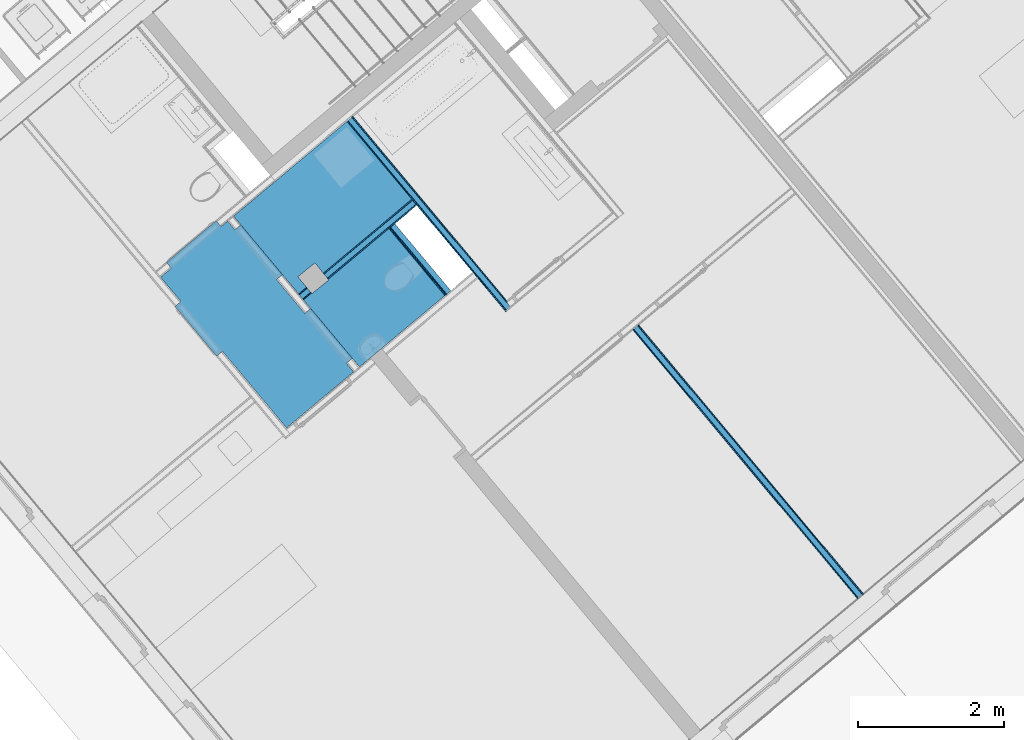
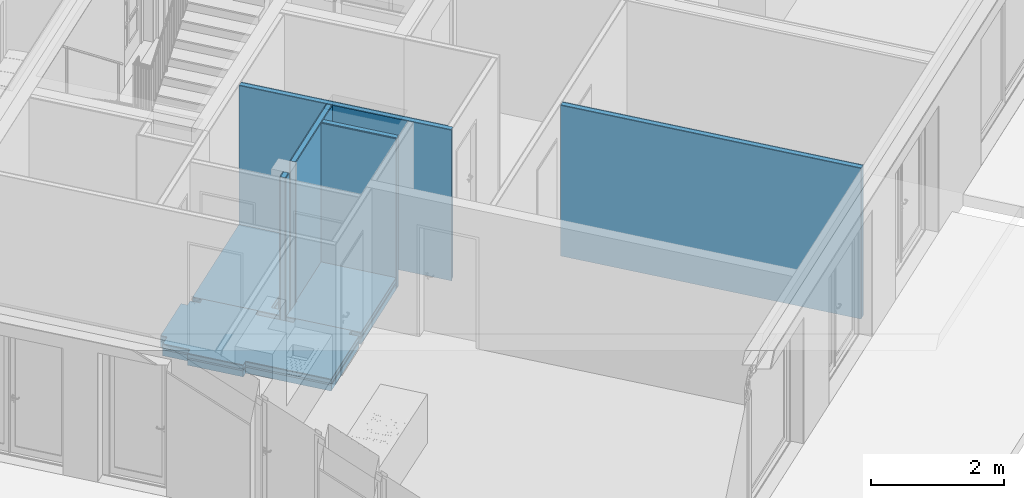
# One storey, part 32 of 75: 24 building element parts, 7 elements without a shape of their own.
"""IFC4 building model written with IfcOpenShell, lengths in metres."""

from ifc_helpers import new_model, entity, si_unit, converted_unit, derived_unit, direction, frame, origin_with_axes, place, context, subcontext, project, spatial, polygons, material, type_object, element, aggregate, save


model = new_model("IFC4")

# Units and contexts
model_context = context("Model", 3, precision=1e-05, world=origin_with_axes(), true_north=direction((0.0, 1.0)))
body_context = subcontext(model_context, "Body", "Model", "MODEL_VIEW")
ifc_project = project(units=[si_unit("LENGTHUNIT", "METRE"), si_unit("AREAUNIT", "SQUARE_METRE"), si_unit("VOLUMEUNIT", "CUBIC_METRE"), converted_unit("PLANEANGLEUNIT", "DEGREE", entity("IfcPlaneAngleMeasure", 0.0174532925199), si_unit("PLANEANGLEUNIT", "RADIAN"), dimensions=[0, 0, 0, 0, 0, 0, 0]), converted_unit("TIMEUNIT", "Year", entity("IfcTimeMeasure", 31556926.0), si_unit("TIMEUNIT", "SECOND"), dimensions=[0, 0, 1, 0, 0, 0, 0]), si_unit("MASSUNIT", "GRAM", prefix="KILO"), si_unit("THERMODYNAMICTEMPERATUREUNIT", "DEGREE_CELSIUS"), si_unit("LUMINOUSINTENSITYUNIT", "LUMEN"), si_unit("ENERGYUNIT", "JOULE", prefix="MEGA"), derived_unit("THERMALCONDUCTANCEUNIT", [(si_unit("POWERUNIT", "WATT"), 1), (si_unit("LENGTHUNIT", "METRE"), -1), (si_unit("THERMODYNAMICTEMPERATUREUNIT", "KELVIN"), -1)]), derived_unit("SPECIFICHEATCAPACITYUNIT", [(si_unit("ENERGYUNIT", "JOULE"), 1), (si_unit("MASSUNIT", "GRAM", prefix="KILO"), -1), (si_unit("THERMODYNAMICTEMPERATUREUNIT", "KELVIN"), -1)]), derived_unit("MASSDENSITYUNIT", [(si_unit("MASSUNIT", "GRAM", prefix="KILO"), 1), (si_unit("VOLUMEUNIT", "CUBIC_METRE"), -1)])], contexts=[model_context])

# Site, building, storey
site_placement = place(None, frame((-0.00153261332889, -0.00661245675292, 0.0), z_axis=(0.0, 0.0, 1.0), x_axis=(1.0, 0.0, 0.0)))
site = spatial("IfcSite", under=ifc_project, at=site_placement, Name="Gelände", CompositionType="ELEMENT")
building_placement = place(site_placement, origin_with_axes())
building = spatial("IfcBuilding", under=site, at=building_placement, Name="Gebäude", CompositionType="ELEMENT")
storey_placement = place(building_placement, frame((0.0, 0.0, -0.22), z_axis=(0.0, 0.0, 1.0), x_axis=(1.0, 0.0, 0.0)))
storey = spatial("IfcBuildingStorey", under=building, at=storey_placement, Name="EG", CompositionType="ELEMENT", Elevation=-0.22)

# Wall, building element parts
wall_type_1 = type_object("IfcWallType", Name="IW LB 01 Leichtbautrennwand einfach 10,5 cm 105", PredefinedType="NOTDEFINED")
wall_1_placement = place(storey_placement, frame((2.82455205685, 18.2460213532, 0.0), z_axis=(0.0, 0.0, 1.0), x_axis=(0.641209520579, -0.767365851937, 0.0)))
wall_1 = element("IfcWall", 1, at=wall_1_placement, inside=storey, type_object=wall_type_1, Name="Wand-012", PredefinedType="NOTDEFINED")
ifc_material_1 = material(Name="Gipskarton")
building_element_part_1_placement = place(wall_1_placement, origin_with_axes())
building_element_part_1 = element("IfcBuildingElementPart", 2, at=building_element_part_1_placement, material=ifc_material_1, Name="Gipskarton", PredefinedType="NOTDEFINED", context=body_context, shape_type="Tessellation", body=[
    polygons([(0.0, 0.0, 2.76), (4.80588291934, 0.0, 2.76), (4.80588291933, 0.0, 0.0), (0.0, 0.0, 0.0), (4.80589268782, -0.015, 2.76), (0.0, -0.015, 2.76), (4.8058926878, -0.015, 0.0), (0.0, -0.015, 0.0)], [[[1, 2, 3, 4]], [[5, 2, 1, 6]], [[2, 5, 7, 3]], [[4, 3, 7, 8]], [[6, 1, 4, 8]], [[5, 6, 8, 7]]], closed=True),
])
ifc_material_2 = material(Name="Mineralwolle weich")
building_element_part_2_placement = place(wall_1_placement, origin_with_axes())
building_element_part_2 = element("IfcBuildingElementPart", 3, at=building_element_part_2_placement, material=ifc_material_2, Name="Mineralwolle weich", PredefinedType="NOTDEFINED", context=body_context, shape_type="Tessellation", body=[
    polygons([(0.0, -0.015, 2.76), (4.80589268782, -0.015, 2.76), (4.8058926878, -0.015, 0.0), (0.0, -0.015, 0.0), (4.80594153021, -0.09, 2.76), (0.0, -0.09, 2.76), (4.80594153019, -0.09, 0.0), (0.0, -0.09, 0.0)], [[[1, 2, 3, 4]], [[5, 2, 1, 6]], [[2, 5, 7, 3]], [[4, 3, 7, 8]], [[6, 1, 4, 8]], [[5, 6, 8, 7]]], closed=True),
])
building_element_part_3_placement = place(wall_1_placement, origin_with_axes())
building_element_part_3 = element("IfcBuildingElementPart", 4, at=building_element_part_3_placement, material=ifc_material_1, Name="Gipskarton", PredefinedType="NOTDEFINED", context=body_context, shape_type="Tessellation", body=[
    polygons([(0.0, -0.09, 2.76), (4.80594153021, -0.09, 2.76), (4.80594153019, -0.09, 0.0), (0.0, -0.09, 0.0), (4.80595129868, -0.105, 2.76), (0.0, -0.105, 2.76), (4.80595129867, -0.105, 0.0), (0.0, -0.105, 0.0)], [[[1, 2, 3, 4]], [[5, 2, 1, 6]], [[2, 5, 7, 3]], [[4, 3, 7, 8]], [[6, 1, 4, 8]], [[5, 6, 8, 7]]], closed=True),
])
aggregate(wall_1, [building_element_part_1, building_element_part_2, building_element_part_3])

wall_2_placement = place(storey_placement, frame((-0.283908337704, 19.9697246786, 0.0), z_axis=(0.0, 0.0, 1.0), x_axis=(-0.76736585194, -0.641209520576, 0.0)))
wall_2 = element("IfcWall", 5, at=wall_2_placement, inside=storey, type_object=wall_type_1, Name="Wand-012", PredefinedType="NOTDEFINED")
building_element_part_4_placement = place(wall_2_placement, origin_with_axes())
building_element_part_4 = element("IfcBuildingElementPart", 6, at=building_element_part_4_placement, material=ifc_material_1, Name="Gipskarton", PredefinedType="NOTDEFINED", context=body_context, shape_type="Tessellation", body=[
    polygons([(1.88476244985, 0.105, 0.0), (1.88476244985, 0.105, 2.76), (2.02595275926, 0.105, 2.76), (2.02595275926, 0.105, 0.0), (1.88453826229, 0.09, 2.76), (1.88453826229, 0.09, 0.0), (2.02595275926, 0.09, 2.76), (2.02595275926, 0.09, 0.0)], [[[1, 2, 3, 4]], [[5, 2, 1, 6]], [[2, 5, 7, 3]], [[4, 3, 7, 8]], [[6, 1, 4, 8]], [[5, 6, 8, 7]]], closed=True),
    polygons([(1.58450475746, 0.09, 2.76), (1.58472894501, 0.105, 2.76), (0.39526751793, 0.105, 2.76), (0.0, 0.105, 2.76), (0.0, 0.09, 2.76), (1.58472894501, 0.105, 0.0), (1.58450475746, 0.09, 0.0), (0.0, 0.105, 0.0), (0.0, 0.09, 0.0)], [[[1, 2, 3, 4, 5]], [[6, 2, 1, 7]], [[2, 6, 8, 4, 3]], [[9, 5, 4, 8]], [[7, 1, 5, 9]], [[6, 7, 9, 8]]], closed=True),
])
building_element_part_5_placement = place(wall_2_placement, origin_with_axes())
building_element_part_5 = element("IfcBuildingElementPart", 7, at=building_element_part_5_placement, material=ifc_material_2, Name="Mineralwolle weich", PredefinedType="NOTDEFINED", context=body_context, shape_type="Tessellation", body=[
    polygons([(1.88453826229, 0.09, 0.0), (1.88453826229, 0.09, 2.76), (2.02595275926, 0.09, 2.76), (2.02595275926, 0.09, 0.0), (1.8834173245, 0.015, 2.76), (1.8834173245, 0.015, 0.0), (2.02595275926, 0.015, 2.76), (2.02595275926, 0.015, 0.0)], [[[1, 2, 3, 4]], [[5, 2, 1, 6]], [[2, 5, 7, 3]], [[4, 3, 7, 8]], [[6, 1, 4, 8]], [[5, 6, 8, 7]]], closed=True),
    polygons([(1.58338381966, 0.015, 2.76), (1.58450475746, 0.09, 2.76), (0.0, 0.09, 2.76), (0.0, 0.015, 2.76), (1.58450475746, 0.09, 0.0), (1.58338381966, 0.015, 0.0), (0.0, 0.09, 0.0), (0.0, 0.015, 0.0)], [[[1, 2, 3, 4]], [[5, 2, 1, 6]], [[2, 5, 7, 3]], [[8, 4, 3, 7]], [[6, 1, 4, 8]], [[5, 6, 8, 7]]], closed=True),
])
building_element_part_6_placement = place(wall_2_placement, origin_with_axes())
building_element_part_6 = element("IfcBuildingElementPart", 8, at=building_element_part_6_placement, material=ifc_material_1, Name="Gipskarton", PredefinedType="NOTDEFINED", context=body_context, shape_type="Tessellation", body=[
    polygons([(1.8834173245, 0.015, 0.0), (1.8834173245, 0.015, 2.76), (2.02595275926, 0.015, 2.76), (2.02595275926, 0.015, 0.0), (1.88319313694, 0.0, 2.76), (1.88319313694, 0.0, 0.0), (2.02595275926, 0.0, 2.76), (2.02595275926, 0.0, 0.0)], [[[1, 2, 3, 4]], [[5, 2, 1, 6]], [[2, 5, 7, 3]], [[4, 3, 7, 8]], [[6, 1, 4, 8]], [[5, 6, 8, 7]]], closed=True),
    polygons([(1.58315963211, 0.0, 2.76), (1.58338381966, 0.015, 2.76), (0.0, 0.015, 2.76), (0.0, 0.0, 2.76), (1.58338381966, 0.015, 0.0), (1.58315963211, 0.0, 0.0), (0.0, 0.015, 0.0), (0.0, 0.0, 0.0)], [[[1, 2, 3, 4]], [[5, 2, 1, 6]], [[2, 5, 7, 3]], [[8, 4, 3, 7]], [[6, 1, 4, 8]], [[5, 6, 8, 7]]], closed=True),
])
aggregate(wall_2, [building_element_part_4, building_element_part_5, building_element_part_6])

wall_3_placement = place(storey_placement, frame((-1.23301762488, 21.1055687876, 0.0), z_axis=(0.0, 0.0, 1.0), x_axis=(0.6412095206, -0.767365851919, 0.0)))
wall_3 = element("IfcWall", 9, at=wall_3_placement, inside=storey, type_object=wall_type_1, Name="Wand-012", PredefinedType="NOTDEFINED")
building_element_part_7_placement = place(wall_3_placement, origin_with_axes())
building_element_part_7 = element("IfcBuildingElementPart", 10, at=building_element_part_7_placement, material=ifc_material_1, Name="Gipskarton", PredefinedType="NOTDEFINED", context=body_context, shape_type="Tessellation", body=[
    polygons([(0.0900000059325, 0.105, 2.76), (3.39960026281, 0.105, 2.76), (3.39960026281, 0.105, 0.0), (0.0900000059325, 0.105, 0.0), (0.0900000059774, 0.09, 2.76), (3.39960026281, 0.09, 2.76), (3.39960026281, 0.09, 0.0), (0.0900000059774, 0.09, 0.0)], [[[1, 2, 3, 4]], [[2, 1, 5, 6]], [[2, 6, 7, 3]], [[3, 7, 8, 4]], [[5, 1, 4, 8]], [[5, 8, 7, 6]]], closed=True),
])
building_element_part_8_placement = place(wall_3_placement, origin_with_axes())
building_element_part_8 = element("IfcBuildingElementPart", 11, at=building_element_part_8_placement, material=ifc_material_2, Name="Mineralwolle weich", PredefinedType="NOTDEFINED", context=body_context, shape_type="Tessellation", body=[
    polygons([(0.0900000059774, 0.09, 2.76), (3.47460026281, 0.09, 2.76), (3.47460026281, 0.09, 0.0), (0.0900000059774, 0.09, 0.0), (0.0900000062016, 0.015, 2.76), (3.47460026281, 0.015, 2.76), (3.47460026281, 0.015, 0.0), (0.0900000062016, 0.015, 0.0)], [[[1, 2, 3, 4]], [[2, 1, 5, 6]], [[2, 6, 7, 3]], [[3, 7, 8, 4]], [[5, 1, 4, 8]], [[5, 8, 7, 6]]], closed=True),
])
building_element_part_9_placement = place(wall_3_placement, origin_with_axes())
building_element_part_9 = element("IfcBuildingElementPart", 12, at=building_element_part_9_placement, material=ifc_material_1, Name="Gipskarton", PredefinedType="NOTDEFINED", context=body_context, shape_type="Tessellation", body=[
    polygons([(0.0900000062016, 0.015, 2.76), (1.48018589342, 0.015, 2.76), (2.78506485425, 0.015, 2.76), (3.48960026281, 0.015, 2.76), (3.48960026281, 0.015, 0.0), (0.0900000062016, 0.015, 0.0), (1.48018589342, 0.0, 2.76), (0.0900000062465, 0.0, 2.76), (1.58518589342, 0.0, 2.76), (2.78506485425, 0.0, 2.76), (3.48960026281, 0.0, 2.76), (3.48960026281, 0.0, 0.0), (0.0900000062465, 0.0, 0.0)], [[[1, 2, 3, 4, 5, 6]], [[7, 2, 1, 8]], [[2, 7, 9, 10, 3]], [[11, 4, 3, 10]], [[4, 11, 12, 5]], [[5, 12, 13, 6]], [[8, 1, 6, 13]], [[7, 8, 13, 12, 11, 10, 9]]], closed=True),
])
aggregate(wall_3, [building_element_part_7, building_element_part_8, building_element_part_9])

# Space
space_placement = place(storey_placement, frame((-3.73003284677, 18.9005183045, 0.0), z_axis=(0.0, 0.0, 1.0), x_axis=(0.641209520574, -0.767365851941, 0.0)))
space = spatial("IfcSpace", under=storey, at=space_placement, CompositionType="ELEMENT", PredefinedType="NOTDEFINED")

# Covering, building element parts
covering_type = type_object("IfcCoveringType", Name="DE 01 Decke Wohnung/Wohnung Fließen 220", PredefinedType="NOTDEFINED")
covering_1_placement = place(space_placement, frame((-0.000120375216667, 0.192623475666, 0.22), z_axis=(0.0, 0.0, 1.0), x_axis=(0.641209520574, 0.767365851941, 0.0)))
covering_1 = element("IfcCovering", 13, at=covering_1_placement, inside=space, type_object=covering_type, Name="Decke-003", PredefinedType="NOTDEFINED")
ifc_material_3 = material(Name="Fliesen")
building_element_part_10_placement = place(covering_1_placement, origin_with_axes())
building_element_part_10 = element("IfcBuildingElementPart", 14, at=building_element_part_10_placement, material=ifc_material_3, Name="Fliesen", PredefinedType="NOTDEFINED", context=body_context, shape_type="Tessellation", body=[
    polygons([(0.772026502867, 0.645686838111, -0.015), (0.772026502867, 0.645686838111, 0.0), (0.871992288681, 0.526053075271, 0.0), (0.871992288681, 0.526053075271, -0.015), (0.682704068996, 0.570977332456, 0.0), (0.682704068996, 0.570977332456, -0.015), (0.6825988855, 0.57110308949, 0.0), (0.615338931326, 0.651518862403, 0.0), (-0.0673464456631, 0.0805191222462, 0.0), (-1.94673659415e-08, -1.62825521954e-08, 0.0), (1.87046381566e-05, -2.24027601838e-05, 0.0), (-0.147735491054, -0.123604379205, 0.0), (0.13108354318, -0.457280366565, 0.0), (0.0505101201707, -0.524607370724, 0.0), (0.621186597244, -1.20756298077, 0.0), (0.701760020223, -1.14023597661, 0.0), (1.57974343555, -2.1909603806, 0.0), (2.49986944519, -1.42210479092, 0.0), (2.40026170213, -1.30289938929, 0.0), (2.48083508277, -1.23557242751, 0.0), (1.91015864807, -0.552616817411, 0.0), (1.82958522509, -0.61994382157, 0.0), (1.44266872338, -0.156902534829, 0.0), (1.52324214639, -0.0895755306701, 0.0), (0.952565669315, 0.59338007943, 0.0), (0.952565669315, 0.59338007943, -0.015), (1.52324214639, -0.0895755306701, -0.015), (1.44266872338, -0.156902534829, -0.015), (1.82958522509, -0.61994382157, -0.015), (1.91015864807, -0.552616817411, -0.015), (2.48083508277, -1.23557242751, -0.015), (2.40026170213, -1.30289938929, -0.015), (2.49986944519, -1.42210479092, -0.015), (1.57974343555, -2.1909603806, -0.015), (0.701760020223, -1.14023597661, -0.015), (0.621186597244, -1.20756298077, -0.015), (0.0505101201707, -0.524607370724, -0.015), (0.13108354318, -0.457280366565, -0.015), (-0.147735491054, -0.123604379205, -0.015), (1.87046381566e-05, -2.24027601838e-05, -0.015), (-1.94673659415e-08, -1.62825521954e-08, -0.015), (-0.0673464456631, 0.0805191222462, -0.015), (0.615338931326, 0.651518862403, -0.015), (0.6825988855, 0.57110308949, -0.015)], [[[1, 2, 3, 4]], [[5, 2, 1, 6]], [[5, 7, 8, 9, 10, 11, 12, 13, 14, 15, 16, 17, 18, 19, 20, 21, 22, 23, 24, 25, 3, 2]], [[26, 4, 3, 25]], [[6, 1, 4, 26, 27, 28, 29, 30, 31, 32, 33, 34, 35, 36, 37, 38, 39, 40, 41, 42, 43, 44]], [[7, 5, 6, 44]], [[7, 44, 43, 8]], [[43, 42, 9, 8]], [[41, 10, 9, 42]], [[11, 10, 41, 40]], [[12, 11, 40, 39]], [[12, 39, 38, 13]], [[38, 37, 14, 13]], [[37, 36, 15, 14]], [[36, 35, 16, 15]], [[35, 34, 17, 16]], [[34, 33, 18, 17]], [[33, 32, 19, 18]], [[32, 31, 20, 19]], [[31, 30, 21, 20]], [[30, 29, 22, 21]], [[29, 28, 23, 22]], [[28, 27, 24, 23]], [[27, 26, 25, 24]]], closed=True),
])
ifc_material_4 = material(Name="Estrich")
building_element_part_11_placement = place(covering_1_placement, origin_with_axes())
building_element_part_11 = element("IfcBuildingElementPart", 15, at=building_element_part_11_placement, material=ifc_material_4, Name="Estrich", PredefinedType="NOTDEFINED", context=body_context, shape_type="Tessellation", body=[
    polygons([(0.772026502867, 0.645686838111, -0.08), (0.772026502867, 0.645686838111, -0.015), (0.871992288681, 0.526053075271, -0.015), (0.871992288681, 0.526053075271, -0.08), (0.682704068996, 0.570977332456, -0.015), (0.682704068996, 0.570977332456, -0.08), (0.6825988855, 0.57110308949, -0.015), (0.615338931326, 0.651518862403, -0.015), (-0.0673464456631, 0.0805191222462, -0.015), (-1.94673659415e-08, -1.62825521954e-08, -0.015), (1.87046381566e-05, -2.24027601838e-05, -0.015), (-0.147735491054, -0.123604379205, -0.015), (0.13108354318, -0.457280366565, -0.015), (0.0505101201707, -0.524607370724, -0.015), (0.621186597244, -1.20756298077, -0.015), (0.701760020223, -1.14023597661, -0.015), (1.57974343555, -2.1909603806, -0.015), (2.49986944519, -1.42210479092, -0.015), (2.40026170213, -1.30289938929, -0.015), (2.48083508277, -1.23557242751, -0.015), (1.91015864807, -0.552616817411, -0.015), (1.82958522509, -0.61994382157, -0.015), (1.44266872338, -0.156902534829, -0.015), (1.52324214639, -0.0895755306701, -0.015), (0.952565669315, 0.59338007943, -0.015), (0.952565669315, 0.59338007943, -0.08), (1.52324214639, -0.0895755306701, -0.08), (1.44266872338, -0.156902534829, -0.08), (1.82958522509, -0.61994382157, -0.08), (1.91015864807, -0.552616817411, -0.08), (2.48083508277, -1.23557242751, -0.08), (2.40026170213, -1.30289938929, -0.08), (2.49986944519, -1.42210479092, -0.08), (1.57974343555, -2.1909603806, -0.08), (0.701760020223, -1.14023597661, -0.08), (0.621186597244, -1.20756298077, -0.08), (0.0505101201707, -0.524607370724, -0.08), (0.13108354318, -0.457280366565, -0.08), (-0.147735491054, -0.123604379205, -0.08), (1.87046381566e-05, -2.24027601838e-05, -0.08), (-1.94673659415e-08, -1.62825521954e-08, -0.08), (-0.0673464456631, 0.0805191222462, -0.08), (0.615338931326, 0.651518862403, -0.08), (0.6825988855, 0.57110308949, -0.08)], [[[1, 2, 3, 4]], [[5, 2, 1, 6]], [[5, 7, 8, 9, 10, 11, 12, 13, 14, 15, 16, 17, 18, 19, 20, 21, 22, 23, 24, 25, 3, 2]], [[26, 4, 3, 25]], [[6, 1, 4, 26, 27, 28, 29, 30, 31, 32, 33, 34, 35, 36, 37, 38, 39, 40, 41, 42, 43, 44]], [[7, 5, 6, 44]], [[7, 44, 43, 8]], [[43, 42, 9, 8]], [[41, 10, 9, 42]], [[11, 10, 41, 40]], [[12, 11, 40, 39]], [[12, 39, 38, 13]], [[38, 37, 14, 13]], [[37, 36, 15, 14]], [[36, 35, 16, 15]], [[35, 34, 17, 16]], [[34, 33, 18, 17]], [[33, 32, 19, 18]], [[32, 31, 20, 19]], [[31, 30, 21, 20]], [[30, 29, 22, 21]], [[29, 28, 23, 22]], [[28, 27, 24, 23]], [[27, 26, 25, 24]]], closed=True),
])
ifc_material_5 = material(Name="Trittschalldämmung")
building_element_part_12_placement = place(covering_1_placement, origin_with_axes())
building_element_part_12 = element("IfcBuildingElementPart", 16, at=building_element_part_12_placement, material=ifc_material_5, Name="Trittschalldämmung", PredefinedType="NOTDEFINED", context=body_context, shape_type="Tessellation", body=[
    polygons([(0.772026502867, 0.645686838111, -0.11), (0.772026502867, 0.645686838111, -0.08), (0.871992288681, 0.526053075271, -0.08), (0.871992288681, 0.526053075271, -0.11), (0.682704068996, 0.570977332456, -0.08), (0.682704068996, 0.570977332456, -0.11), (0.6825988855, 0.57110308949, -0.08), (0.615338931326, 0.651518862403, -0.08), (-0.0673464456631, 0.0805191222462, -0.08), (-1.94673659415e-08, -1.62825521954e-08, -0.08), (1.87046381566e-05, -2.24027601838e-05, -0.08), (-0.147735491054, -0.123604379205, -0.08), (0.13108354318, -0.457280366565, -0.08), (0.0505101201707, -0.524607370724, -0.08), (0.621186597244, -1.20756298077, -0.08), (0.701760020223, -1.14023597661, -0.08), (1.57974343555, -2.1909603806, -0.08), (2.49986944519, -1.42210479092, -0.08), (2.40026170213, -1.30289938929, -0.08), (2.48083508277, -1.23557242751, -0.08), (1.91015864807, -0.552616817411, -0.08), (1.82958522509, -0.61994382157, -0.08), (1.44266872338, -0.156902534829, -0.08), (1.52324214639, -0.0895755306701, -0.08), (0.952565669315, 0.59338007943, -0.08), (0.952565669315, 0.59338007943, -0.11), (1.52324214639, -0.0895755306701, -0.11), (1.44266872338, -0.156902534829, -0.11), (1.82958522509, -0.61994382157, -0.11), (1.91015864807, -0.552616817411, -0.11), (2.48083508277, -1.23557242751, -0.11), (2.40026170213, -1.30289938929, -0.11), (2.49986944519, -1.42210479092, -0.11), (1.57974343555, -2.1909603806, -0.11), (0.701760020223, -1.14023597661, -0.11), (0.621186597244, -1.20756298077, -0.11), (0.0505101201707, -0.524607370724, -0.11), (0.13108354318, -0.457280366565, -0.11), (-0.147735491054, -0.123604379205, -0.11), (1.87046381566e-05, -2.24027601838e-05, -0.11), (-1.94673659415e-08, -1.62825521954e-08, -0.11), (-0.0673464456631, 0.0805191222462, -0.11), (0.615338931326, 0.651518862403, -0.11), (0.6825988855, 0.57110308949, -0.11)], [[[1, 2, 3, 4]], [[5, 2, 1, 6]], [[5, 7, 8, 9, 10, 11, 12, 13, 14, 15, 16, 17, 18, 19, 20, 21, 22, 23, 24, 25, 3, 2]], [[26, 4, 3, 25]], [[6, 1, 4, 26, 27, 28, 29, 30, 31, 32, 33, 34, 35, 36, 37, 38, 39, 40, 41, 42, 43, 44]], [[7, 5, 6, 44]], [[7, 44, 43, 8]], [[43, 42, 9, 8]], [[41, 10, 9, 42]], [[11, 10, 41, 40]], [[12, 11, 40, 39]], [[12, 39, 38, 13]], [[38, 37, 14, 13]], [[37, 36, 15, 14]], [[36, 35, 16, 15]], [[35, 34, 17, 16]], [[34, 33, 18, 17]], [[33, 32, 19, 18]], [[32, 31, 20, 19]], [[31, 30, 21, 20]], [[30, 29, 22, 21]], [[29, 28, 23, 22]], [[28, 27, 24, 23]], [[27, 26, 25, 24]]], closed=True),
])
ifc_material_6 = material(Name="Schüttung")
building_element_part_13_placement = place(covering_1_placement, origin_with_axes())
building_element_part_13 = element("IfcBuildingElementPart", 17, at=building_element_part_13_placement, material=ifc_material_6, Name="Schüttung", PredefinedType="NOTDEFINED", context=body_context, shape_type="Tessellation", body=[
    polygons([(0.772026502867, 0.645686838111, -0.22), (0.772026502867, 0.645686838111, -0.11), (0.871992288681, 0.526053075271, -0.11), (0.871992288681, 0.526053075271, -0.22), (0.682704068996, 0.570977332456, -0.11), (0.682704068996, 0.570977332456, -0.22), (0.6825988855, 0.57110308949, -0.11), (0.615338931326, 0.651518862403, -0.11), (-0.0673464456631, 0.0805191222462, -0.11), (-1.94673659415e-08, -1.62825521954e-08, -0.11), (1.87046381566e-05, -2.24027601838e-05, -0.11), (-0.147735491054, -0.123604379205, -0.11), (0.13108354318, -0.457280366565, -0.11), (0.0505101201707, -0.524607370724, -0.11), (0.621186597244, -1.20756298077, -0.11), (0.701760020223, -1.14023597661, -0.11), (1.57974343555, -2.1909603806, -0.11), (2.49986944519, -1.42210479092, -0.11), (2.40026170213, -1.30289938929, -0.11), (2.48083508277, -1.23557242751, -0.11), (1.91015864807, -0.552616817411, -0.11), (1.82958522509, -0.61994382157, -0.11), (1.44266872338, -0.156902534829, -0.11), (1.52324214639, -0.0895755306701, -0.11), (0.952565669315, 0.59338007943, -0.11), (0.952565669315, 0.59338007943, -0.22), (1.52324214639, -0.0895755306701, -0.22), (1.44266872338, -0.156902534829, -0.22), (1.82958522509, -0.61994382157, -0.22), (1.91015864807, -0.552616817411, -0.22), (2.48083508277, -1.23557242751, -0.22), (2.40026170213, -1.30289938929, -0.22), (2.49986944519, -1.42210479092, -0.22), (1.57974343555, -2.1909603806, -0.22), (0.701760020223, -1.14023597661, -0.22), (0.621186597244, -1.20756298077, -0.22), (0.0505101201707, -0.524607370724, -0.22), (0.13108354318, -0.457280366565, -0.22), (-0.147735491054, -0.123604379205, -0.22), (1.87046381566e-05, -2.24027601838e-05, -0.22), (-1.94673646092e-08, -1.62825521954e-08, -0.22), (-0.0673464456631, 0.0805191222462, -0.22), (0.615338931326, 0.651518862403, -0.22), (0.682598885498, 0.571103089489, -0.22)], [[[1, 2, 3, 4]], [[5, 2, 1, 6]], [[5, 7, 8, 9, 10, 11, 12, 13, 14, 15, 16, 17, 18, 19, 20, 21, 22, 23, 24, 25, 3, 2]], [[25, 26, 4, 3]], [[6, 1, 4, 26, 27, 28, 29, 30, 31, 32, 33, 34, 35, 36, 37, 38, 39, 40, 41, 42, 43, 44]], [[7, 5, 6, 44]], [[7, 44, 43, 8]], [[8, 43, 42, 9]], [[41, 10, 9, 42]], [[11, 10, 41, 40]], [[12, 11, 40, 39]], [[12, 39, 38, 13]], [[13, 38, 37, 14]], [[14, 37, 36, 15]], [[15, 36, 35, 16]], [[16, 35, 34, 17]], [[17, 34, 33, 18]], [[18, 33, 32, 19]], [[19, 32, 31, 20]], [[20, 31, 30, 21]], [[21, 30, 29, 22]], [[22, 29, 28, 23]], [[23, 28, 27, 24]], [[24, 27, 26, 25]]], closed=True),
])
aggregate(covering_1, [building_element_part_10, building_element_part_11, building_element_part_12, building_element_part_13])

# Wall, building element parts
wall_type_2 = type_object("IfcWallType", Name="LB 10,5 cm doppelte Vorsatzschale Bad 105", PredefinedType="NOTDEFINED")
wall_4_placement = place(storey_placement, frame((-0.587223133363, 19.7162753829, 0.0), z_axis=(0.0, 0.0, 1.0), x_axis=(0.64120952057, -0.767365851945, 0.0)))
wall_4 = element("IfcWall", 18, at=wall_4_placement, inside=storey, type_object=wall_type_2, Name="Wand-004", PredefinedType="NOTDEFINED")
building_element_part_14_placement = place(wall_4_placement, origin_with_axes())
building_element_part_14 = element("IfcBuildingElementPart", 19, at=building_element_part_14_placement, material=ifc_material_2, Name="Mineralwolle weich", PredefinedType="NOTDEFINED", context=body_context, shape_type="Tessellation", body=[
    polygons([(0.10500000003, 0.0, 2.76), (1.30487896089, 0.0, 2.76), (1.30487896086, 0.0, 0.0), (0.10500000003, 0.0, 0.0), (1.30487896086, -0.075, 2.76), (0.105000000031, -0.075, 2.76), (1.30487896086, -0.075, 0.0), (0.105000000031, -0.075, 0.0)], [[[1, 2, 3, 4]], [[5, 2, 1, 6]], [[2, 5, 7, 3]], [[3, 7, 8, 4]], [[6, 1, 4, 8]], [[5, 6, 8, 7]]], closed=True),
])
building_element_part_15_placement = place(wall_4_placement, origin_with_axes())
building_element_part_15 = element("IfcBuildingElementPart", 20, at=building_element_part_15_placement, material=ifc_material_1, Name="Gipskarton", PredefinedType="NOTDEFINED", context=body_context, shape_type="Tessellation", body=[
    polygons([(0.105000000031, -0.075, 2.76), (1.30487896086, -0.075, 2.76), (1.30487896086, -0.075, 0.0), (0.105000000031, -0.075, 0.0), (1.30487896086, -0.09, 2.76), (0.105000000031, -0.09, 2.76), (1.30487896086, -0.09, 0.0), (0.105000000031, -0.09, 0.0)], [[[1, 2, 3, 4]], [[5, 2, 1, 6]], [[2, 5, 7, 3]], [[3, 7, 8, 4]], [[6, 1, 4, 8]], [[5, 6, 8, 7]]], closed=True),
])
building_element_part_16_placement = place(wall_4_placement, origin_with_axes())
building_element_part_16 = element("IfcBuildingElementPart", 21, at=building_element_part_16_placement, material=ifc_material_1, Name="Gipskarton", PredefinedType="NOTDEFINED", context=body_context, shape_type="Tessellation", body=[
    polygons([(0.105000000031, -0.09, 2.76), (1.30487896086, -0.09, 2.76), (1.30487896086, -0.09, 0.0), (0.105000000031, -0.09, 0.0), (1.30487896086, -0.105, 2.76), (0.105000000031, -0.105, 2.76), (1.30487896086, -0.105, 0.0), (0.105000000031, -0.105, 0.0)], [[[1, 2, 3, 4]], [[5, 2, 1, 6]], [[2, 5, 7, 3]], [[3, 7, 8, 4]], [[6, 1, 4, 8]], [[5, 6, 8, 7]]], closed=True),
])
aggregate(wall_4, [building_element_part_14, building_element_part_15, building_element_part_16])

# Covering, building element parts
covering_2_placement = place(storey_placement, frame((-2.72972930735, 19.7371746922, 0.22), z_axis=(0.0, 0.0, 1.0), x_axis=(1.0, 0.0, 0.0)))
covering_2 = element("IfcCovering", 22, at=covering_2_placement, inside=storey, type_object=covering_type, Name="Decke-003", PredefinedType="NOTDEFINED")
building_element_part_17_placement = place(covering_2_placement, origin_with_axes())
building_element_part_17 = element("IfcBuildingElementPart", 23, at=building_element_part_17_placement, material=ifc_material_3, Name="Fliesen", PredefinedType="NOTDEFINED", context=body_context, shape_type="Tessellation", body=[
    polygons([(0.89117400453, -1.06651021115, -0.015), (0.89117400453, -1.06651021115, 0.0), (0.0, 0.0, 0.0), (0.0, 0.0, -0.015), (1.00072286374, -0.974971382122, -0.015), (1.00072286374, -0.974971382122, 0.0), (0.883663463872, -0.830548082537, 0.0), (1.11672221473, -0.641647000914, 0.0), (1.2309583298, -0.782587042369, 0.0), (2.44582096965, 0.232549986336, 0.0), (1.55442053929, 1.29933116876, 0.0), (1.55442053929, 1.29933116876, -0.015), (2.44582096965, 0.232549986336, -0.015), (1.2309583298, -0.782587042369, -0.015), (1.11672221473, -0.641647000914, -0.015), (0.883663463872, -0.830548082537, -0.015)], [[[1, 2, 3, 4]], [[5, 6, 2, 1]], [[3, 2, 6, 7, 8, 9, 10, 11]], [[4, 3, 11, 12]], [[4, 12, 13, 14, 15, 16, 5, 1]], [[16, 7, 6, 5]], [[15, 8, 7, 16]], [[14, 9, 8, 15]], [[13, 10, 9, 14]], [[12, 11, 10, 13]]], closed=True),
])
building_element_part_18_placement = place(covering_2_placement, origin_with_axes())
building_element_part_18 = element("IfcBuildingElementPart", 24, at=building_element_part_18_placement, material=ifc_material_4, Name="Estrich", PredefinedType="NOTDEFINED", context=body_context, shape_type="Tessellation", body=[
    polygons([(0.89117400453, -1.06651021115, -0.08), (0.89117400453, -1.06651021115, -0.015), (0.0, 0.0, -0.015), (0.0, 0.0, -0.08), (1.00072286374, -0.974971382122, -0.08), (1.00072286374, -0.974971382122, -0.015), (0.883663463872, -0.830548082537, -0.015), (1.11672221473, -0.641647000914, -0.015), (1.2309583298, -0.782587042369, -0.015), (2.44582096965, 0.232549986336, -0.015), (1.55442053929, 1.29933116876, -0.015), (1.55442053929, 1.29933116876, -0.08), (2.44582096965, 0.232549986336, -0.08), (1.2309583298, -0.782587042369, -0.08), (1.11672221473, -0.641647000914, -0.08), (0.883663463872, -0.830548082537, -0.08)], [[[1, 2, 3, 4]], [[5, 6, 2, 1]], [[3, 2, 6, 7, 8, 9, 10, 11]], [[4, 3, 11, 12]], [[4, 12, 13, 14, 15, 16, 5, 1]], [[16, 7, 6, 5]], [[15, 8, 7, 16]], [[14, 9, 8, 15]], [[13, 10, 9, 14]], [[12, 11, 10, 13]]], closed=True),
])
building_element_part_19_placement = place(covering_2_placement, origin_with_axes())
building_element_part_19 = element("IfcBuildingElementPart", 25, at=building_element_part_19_placement, material=ifc_material_5, Name="Trittschalldämmung", PredefinedType="NOTDEFINED", context=body_context, shape_type="Tessellation", body=[
    polygons([(0.89117400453, -1.06651021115, -0.11), (0.89117400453, -1.06651021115, -0.08), (0.0, 0.0, -0.08), (0.0, 0.0, -0.11), (1.00072286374, -0.974971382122, -0.11), (1.00072286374, -0.974971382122, -0.08), (0.883663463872, -0.830548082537, -0.08), (1.11672221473, -0.641647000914, -0.08), (1.2309583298, -0.782587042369, -0.08), (2.44582096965, 0.232549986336, -0.08), (1.55442053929, 1.29933116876, -0.08), (1.55442053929, 1.29933116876, -0.11), (2.44582096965, 0.232549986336, -0.11), (1.2309583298, -0.782587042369, -0.11), (1.11672221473, -0.641647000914, -0.11), (0.883663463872, -0.830548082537, -0.11)], [[[1, 2, 3, 4]], [[5, 6, 2, 1]], [[3, 2, 6, 7, 8, 9, 10, 11]], [[4, 3, 11, 12]], [[4, 12, 13, 14, 15, 16, 5, 1]], [[16, 7, 6, 5]], [[15, 8, 7, 16]], [[14, 9, 8, 15]], [[13, 10, 9, 14]], [[12, 11, 10, 13]]], closed=True),
])
building_element_part_20_placement = place(covering_2_placement, origin_with_axes())
building_element_part_20 = element("IfcBuildingElementPart", 26, at=building_element_part_20_placement, material=ifc_material_6, Name="Schüttung", PredefinedType="NOTDEFINED", context=body_context, shape_type="Tessellation", body=[
    polygons([(0.0, 0.0, -0.22), (0.89117400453, -1.06651021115, -0.22), (0.89117400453, -1.06651021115, -0.11), (0.0, 0.0, -0.11), (1.55442053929, 1.29933116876, -0.22), (2.44582096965, 0.232549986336, -0.22), (1.2309583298, -0.782587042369, -0.22), (1.11672221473, -0.641647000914, -0.22), (0.883663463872, -0.830548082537, -0.22), (1.00072286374, -0.974971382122, -0.22), (1.00072286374, -0.974971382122, -0.11), (0.883663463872, -0.830548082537, -0.11), (1.11672221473, -0.641647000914, -0.11), (1.2309583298, -0.782587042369, -0.11), (2.44582096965, 0.232549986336, -0.11), (1.55442053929, 1.29933116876, -0.11)], [[[1, 2, 3, 4]], [[1, 5, 6, 7, 8, 9, 10, 2]], [[2, 10, 11, 3]], [[4, 3, 11, 12, 13, 14, 15, 16]], [[5, 1, 4, 16]], [[6, 5, 16, 15]], [[7, 6, 15, 14]], [[8, 7, 14, 13]], [[9, 8, 13, 12]], [[10, 9, 12, 11]]], closed=True),
])
aggregate(covering_2, [building_element_part_17, building_element_part_18, building_element_part_19, building_element_part_20])

covering_3_placement = place(storey_placement, frame((-1.77122830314, 18.5900910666, 0.22), z_axis=(0.0, 0.0, 1.0), x_axis=(1.0, 0.0, 0.0)))
covering_3 = element("IfcCovering", 27, at=covering_3_placement, inside=storey, type_object=covering_type, Name="Decke-004", PredefinedType="NOTDEFINED")
building_element_part_21_placement = place(covering_3_placement, origin_with_axes())
building_element_part_21 = element("IfcBuildingElementPart", 28, at=building_element_part_21_placement, material=ifc_material_3, Name="Fliesen", PredefinedType="NOTDEFINED", context=body_context, shape_type="Tessellation", body=[
    polygons([(0.769373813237, -0.920746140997, -0.015), (0.769373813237, -0.920746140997, 0.0), (0.0, 0.0, 0.0), (0.0, 0.0, -0.015), (1.94013256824, 0.0575377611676, -0.015), (1.94013256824, 0.0575377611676, 0.0), (1.170758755, 0.978283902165, 0.0), (0.338580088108, 0.282916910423, 0.0), (0.34712229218, 0.272377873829, 0.0), (0.114063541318, 0.0834767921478, 0.0), (0.108344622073, 0.0905325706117, 0.0), (0.108344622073, 0.0905325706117, -0.015), (0.114063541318, 0.0834767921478, -0.015), (0.34712229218, 0.272377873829, -0.015), (0.338580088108, 0.282916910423, -0.015), (1.170758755, 0.978283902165, -0.015)], [[[1, 2, 3, 4]], [[5, 6, 2, 1]], [[3, 2, 6, 7, 8, 9, 10, 11]], [[4, 3, 11, 12]], [[4, 12, 13, 14, 15, 16, 5, 1]], [[16, 7, 6, 5]], [[15, 8, 7, 16]], [[14, 9, 8, 15]], [[13, 10, 9, 14]], [[12, 11, 10, 13]]], closed=True),
])
building_element_part_22_placement = place(covering_3_placement, origin_with_axes())
building_element_part_22 = element("IfcBuildingElementPart", 29, at=building_element_part_22_placement, material=ifc_material_4, Name="Estrich", PredefinedType="NOTDEFINED", context=body_context, shape_type="Tessellation", body=[
    polygons([(0.769373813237, -0.920746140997, -0.08), (0.769373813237, -0.920746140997, -0.015), (0.0, 0.0, -0.015), (0.0, 0.0, -0.08), (1.94013256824, 0.0575377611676, -0.08), (1.94013256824, 0.0575377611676, -0.015), (1.170758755, 0.978283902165, -0.015), (0.338580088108, 0.282916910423, -0.015), (0.34712229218, 0.272377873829, -0.015), (0.114063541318, 0.0834767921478, -0.015), (0.108344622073, 0.0905325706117, -0.015), (0.108344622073, 0.0905325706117, -0.08), (0.114063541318, 0.0834767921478, -0.08), (0.34712229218, 0.272377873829, -0.08), (0.338580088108, 0.282916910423, -0.08), (1.170758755, 0.978283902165, -0.08)], [[[1, 2, 3, 4]], [[5, 6, 2, 1]], [[3, 2, 6, 7, 8, 9, 10, 11]], [[4, 3, 11, 12]], [[4, 12, 13, 14, 15, 16, 5, 1]], [[16, 7, 6, 5]], [[15, 8, 7, 16]], [[14, 9, 8, 15]], [[13, 10, 9, 14]], [[12, 11, 10, 13]]], closed=True),
])
building_element_part_23_placement = place(covering_3_placement, origin_with_axes())
building_element_part_23 = element("IfcBuildingElementPart", 30, at=building_element_part_23_placement, material=ifc_material_5, Name="Trittschalldämmung", PredefinedType="NOTDEFINED", context=body_context, shape_type="Tessellation", body=[
    polygons([(0.769373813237, -0.920746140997, -0.11), (0.769373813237, -0.920746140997, -0.08), (0.0, 0.0, -0.08), (0.0, 0.0, -0.11), (1.94013256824, 0.0575377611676, -0.11), (1.94013256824, 0.0575377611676, -0.08), (1.170758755, 0.978283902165, -0.08), (0.338580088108, 0.282916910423, -0.08), (0.34712229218, 0.272377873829, -0.08), (0.114063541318, 0.0834767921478, -0.08), (0.108344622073, 0.0905325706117, -0.08), (0.108344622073, 0.0905325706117, -0.11), (0.114063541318, 0.0834767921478, -0.11), (0.34712229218, 0.272377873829, -0.11), (0.338580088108, 0.282916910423, -0.11), (1.170758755, 0.978283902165, -0.11)], [[[1, 2, 3, 4]], [[5, 6, 2, 1]], [[3, 2, 6, 7, 8, 9, 10, 11]], [[4, 3, 11, 12]], [[4, 12, 13, 14, 15, 16, 5, 1]], [[16, 7, 6, 5]], [[15, 8, 7, 16]], [[14, 9, 8, 15]], [[13, 10, 9, 14]], [[12, 11, 10, 13]]], closed=True),
])
building_element_part_24_placement = place(covering_3_placement, origin_with_axes())
building_element_part_24 = element("IfcBuildingElementPart", 31, at=building_element_part_24_placement, material=ifc_material_6, Name="Schüttung", PredefinedType="NOTDEFINED", context=body_context, shape_type="Tessellation", body=[
    polygons([(0.0, 0.0, -0.22), (0.769373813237, -0.920746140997, -0.22), (0.769373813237, -0.920746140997, -0.11), (0.0, 0.0, -0.11), (0.108344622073, 0.0905325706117, -0.22), (0.114063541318, 0.0834767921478, -0.22), (0.34712229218, 0.272377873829, -0.22), (0.338580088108, 0.282916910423, -0.22), (1.170758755, 0.978283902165, -0.22), (1.94013256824, 0.0575377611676, -0.22), (1.94013256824, 0.0575377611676, -0.11), (1.170758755, 0.978283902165, -0.11), (0.338580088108, 0.282916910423, -0.11), (0.34712229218, 0.272377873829, -0.11), (0.114063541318, 0.0834767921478, -0.11), (0.108344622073, 0.0905325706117, -0.11)], [[[1, 2, 3, 4]], [[1, 5, 6, 7, 8, 9, 10, 2]], [[2, 10, 11, 3]], [[4, 3, 11, 12, 13, 14, 15, 16]], [[5, 1, 4, 16]], [[6, 5, 16, 15]], [[7, 6, 15, 14]], [[8, 7, 14, 13]], [[9, 8, 13, 12]], [[10, 9, 12, 11]]], closed=True),
])
aggregate(covering_3, [building_element_part_21, building_element_part_22, building_element_part_23, building_element_part_24])

save(model, "model.ifc")
